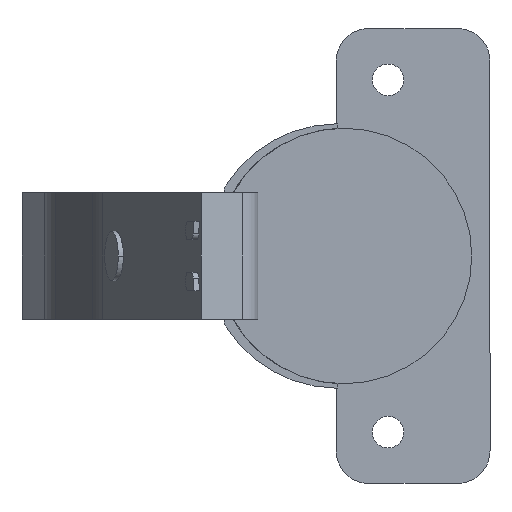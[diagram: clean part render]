
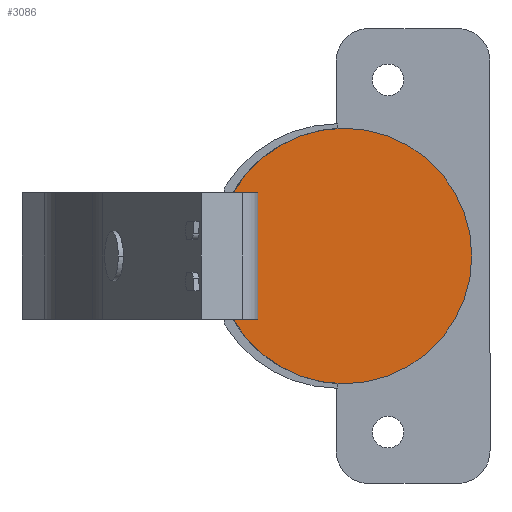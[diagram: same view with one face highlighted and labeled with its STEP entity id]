
A CAD part, front view. The second image highlights one B-rep face of the part: STEP entity #3086.
In plain terms, the highlighted planar face has unit normal (0, -1, 0).
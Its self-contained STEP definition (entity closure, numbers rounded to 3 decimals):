
#97 = DIRECTION ( 'NONE',  ( 0., 0., -1. ) ) ;
#126 = EDGE_CURVE ( 'NONE', #2929, #3949, #1315, .T. ) ;
#207 = AXIS2_PLACEMENT_3D ( 'NONE', #1983, #749, #97 ) ;
#749 = DIRECTION ( 'NONE',  ( 0., -1., 0. ) ) ;
#1074 = DIRECTION ( 'NONE',  ( 0., 0., -1. ) ) ;
#1307 = CARTESIAN_POINT ( 'NONE',  ( 0., -11.4, -17.4 ) ) ;
#1315 = CIRCLE ( 'NONE', #207, 17.4 ) ;
#1543 = EDGE_CURVE ( 'NONE', #3949, #2929, #1621, .T. ) ;
#1611 = DIRECTION ( 'NONE',  ( 0., -1., 0. ) ) ;
#1621 = CIRCLE ( 'NONE', #2559, 17.4 ) ;
#1876 = ORIENTED_EDGE ( 'NONE', *, *, #1543, .T. ) ;
#1973 = PLANE ( 'NONE',  #3254 ) ;
#1983 = CARTESIAN_POINT ( 'NONE',  ( 0., -11.4, 0. ) ) ;
#2091 = CARTESIAN_POINT ( 'NONE',  ( 0., -11.4, 17.4 ) ) ;
#2559 = AXIS2_PLACEMENT_3D ( 'NONE', #3875, #1611, #1074 ) ;
#2920 = DIRECTION ( 'NONE',  ( 0., 0., 1. ) ) ;
#2929 = VERTEX_POINT ( 'NONE', #1307 ) ;
#3002 = DIRECTION ( 'NONE',  ( 0., 1., 0. ) ) ;
#3086 = ADVANCED_FACE ( 'NONE', ( #3341 ), #1973, .F. ) ;
#3254 = AXIS2_PLACEMENT_3D ( 'NONE', #3297, #3002, #2920 ) ;
#3297 = CARTESIAN_POINT ( 'NONE',  ( 10.967, -11.4, -7.7 ) ) ;
#3341 = FACE_OUTER_BOUND ( 'NONE', #4006, .T. ) ;
#3848 = ORIENTED_EDGE ( 'NONE', *, *, #126, .T. ) ;
#3875 = CARTESIAN_POINT ( 'NONE',  ( 0., -11.4, 0. ) ) ;
#3949 = VERTEX_POINT ( 'NONE', #2091 ) ;
#4006 = EDGE_LOOP ( 'NONE', ( #1876, #3848 ) ) ;
